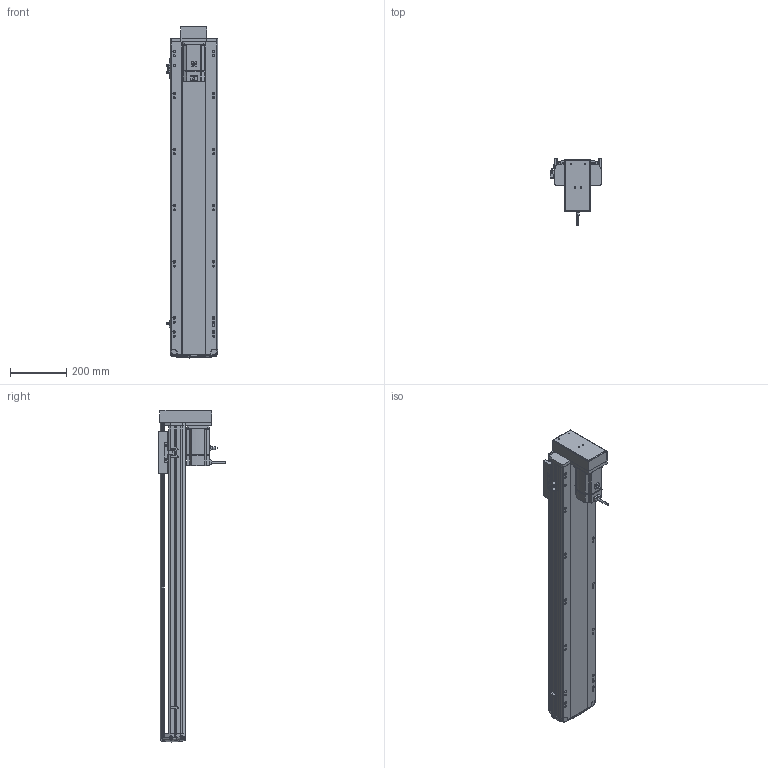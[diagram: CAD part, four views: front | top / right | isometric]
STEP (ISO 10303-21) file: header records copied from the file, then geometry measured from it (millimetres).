
FILE_DESCRIPTION (( 'STEP AP214' ), '1' );
FILE_NAME ('RTH17-XX-900-M-M75-C4.STEP', '2025-10-24T10:26:16', ( '' ), ( '' ), 'SwSTEP 2.0', 'SolidWorks 2018', '' );
FILE_SCHEMA (( 'AUTOMOTIVE_DESIGN' ));
Length unit declared in the file: millimetre
Products named in the file (10): N_M75^RTH17-XX-XX-M-M75-C4（方程式）; N_RTH17-M-018盖子^RTH17-XX-XX-M-M75-C4（方程式）; N_RTH-BL-012 感应片(外置)^RTH17-XX-XX-M-M75-C4（方程式）; N_RTH17-E-004丝杆螺母连接座^RTH17-XX-XX-M-M75-C4（方程式）; N_OMRON EE-SX672 換覜ん^RTH17-XX-XX-M-M75-C4ㄗ源最宒ㄘ; N_RTH17-M-008-P75电机安装板下折750W^RTH17-XX-XX-M-M75-C4（方程式）; N_RTH17-M-011底座^RTH17-XX-XX-M-M75-C4（方程式）; N_RTH17-GY-001P^RTH17-XX-XX-M-M75-C4（方程式）; RTH17-XX-900-M-M75-C4; N_RTH17-M-007上盖^RTH17-XX-XX-M-M75-C4（方程式）
Assembly tree (11 placements, depth 2):
  RTH17-XX-900-M-M75-C4
    N_RTH17-M-011底座^RTH17-XX-XX-M-M75-C4（方程式）
    N_RTH17-M-007上盖^RTH17-XX-XX-M-M75-C4（方程式）
    N_M75^RTH17-XX-XX-M-M75-C4（方程式）
    N_OMRON EE-SX672 換覜ん^RTH17-XX-XX-M-M75-C4ㄗ源最宒ㄘ  x3
    N_RTH-BL-012 感应片(外置)^RTH17-XX-XX-M-M75-C4（方程式）
    N_RTH17-M-008-P75电机安装板下折750W^RTH17-XX-XX-M-M75-C4（方程式）
    N_RTH17-M-018盖子^RTH17-XX-XX-M-M75-C4（方程式）
    N_RTH17-E-004丝杆螺母连接座^RTH17-XX-XX-M-M75-C4（方程式）
    N_RTH17-GY-001P^RTH17-XX-XX-M-M75-C4（方程式）
Bounding box: 183.5 x 240.7 x 1183.19 mm (x, y, z)
Volume: 9576526.9 mm3; surface area: 1326661.1 mm2
Topology: 10 solids, 12 shells, 1773 faces, 4904 edges, 3176 vertices
Faces by surface type: plane 832, cylinder 527, bspline 377, cone 28, torus 9
Entity records: 52103 total; most frequent: CARTESIAN_POINT 20774, ORIENTED_EDGE 6832, DIRECTION 5674, EDGE_CURVE 3420, VERTEX_POINT 2212, AXIS2_PLACEMENT_3D 1915, VECTOR 1844, LINE 1844
